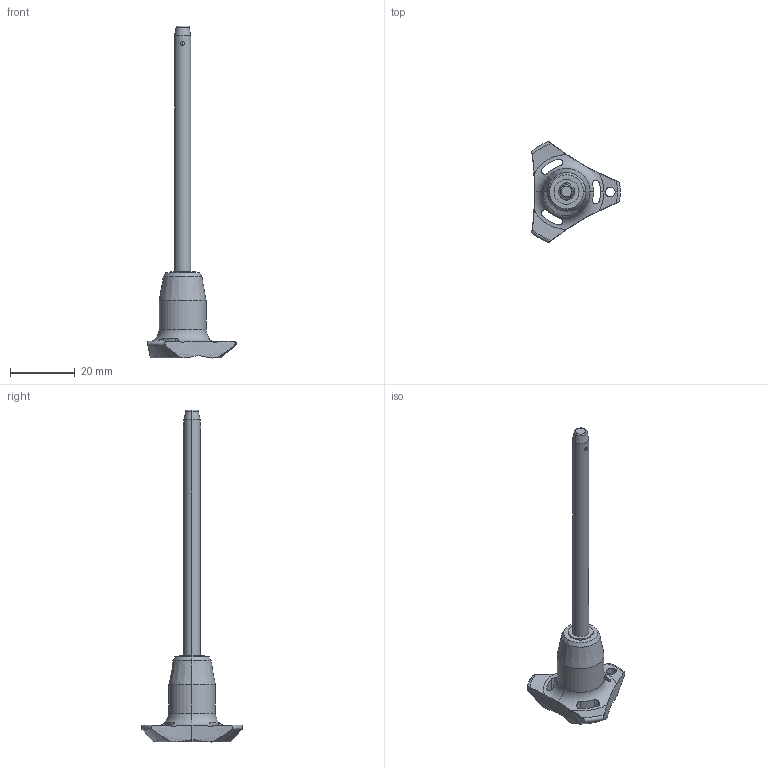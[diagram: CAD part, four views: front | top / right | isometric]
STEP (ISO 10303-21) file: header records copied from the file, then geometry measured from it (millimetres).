
FILE_DESCRIPTION (( 'STEP AP203' ), '1' );
FILE_NAME ('QR1714.M05-070-S.step', '2025-11-12T09:56:40', ( '' ), ( '' ), 'SwSTEP 2.0', 'SolidWorks 2019', '' );
FILE_SCHEMA (( 'CONFIG_CONTROL_DESIGN' ));
Length unit declared in the file: millimetre
Products named in the file (1): QR1714.M05-070-S
Bounding box: 27.4 x 31.31 x 102.7 mm (x, y, z)
Volume: 6242.5 mm3; surface area: 3607.8 mm2
Topology: 1 solids, 1 shells, 66 faces, 181 edges, 115 vertices
Faces by surface type: cylinder 30, cone 14, torus 12, sphere 6, plane 4
Entity records: 2693 total; most frequent: CARTESIAN_POINT 981, ORIENTED_EDGE 362, DIRECTION 332, EDGE_CURVE 181, AXIS2_PLACEMENT_3D 148, VERTEX_POINT 115, CIRCLE 81, EDGE_LOOP 72
